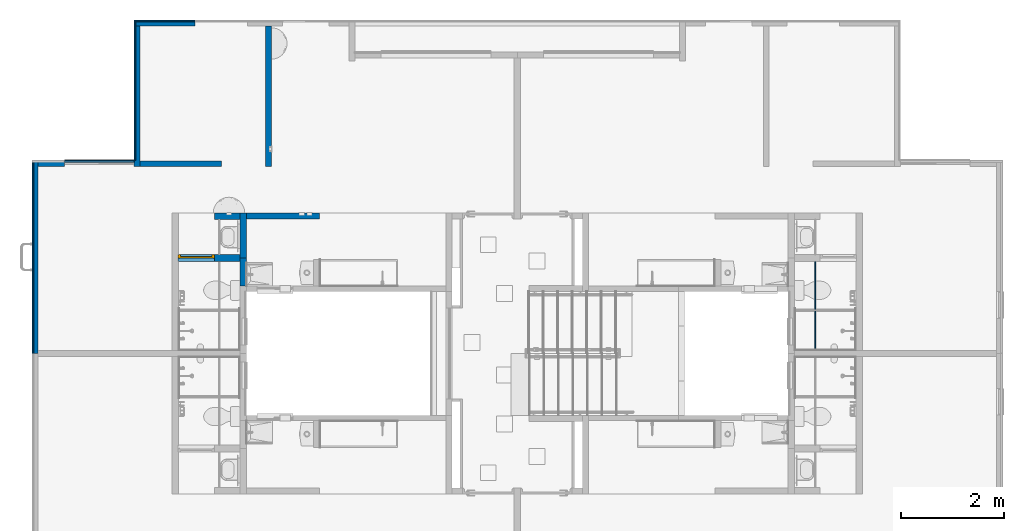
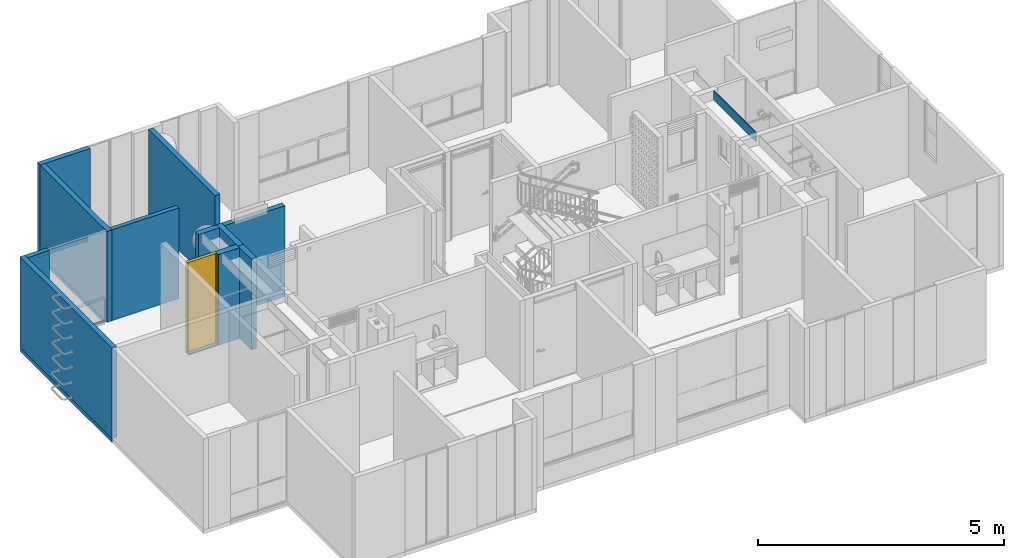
# One storey, part 17 of 51: 16 walls, 1 door, 1 opening.
"""IFC4 building model written with IfcOpenShell, lengths in metres."""

from ifc_helpers import new_model, entity, si_unit, converted_unit, derived_unit, direction, frame, origin, place, context, subcontext, project, spatial, indexed_curve, outline, extrude, polygons, source, transform, mapped, material, constituent, constituent_set, type_object, type_shapes, element, fill, save


model = new_model("IFC4")

# Units and contexts
model_context = context("Model", 3, precision=1e-05, world=origin(), true_north=direction((6.123031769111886e-17, 1.0)))
body_context = subcontext(model_context, "Body", "Model", "MODEL_VIEW")
ifc_project = project(units=[si_unit("LENGTHUNIT", "METRE"), si_unit("AREAUNIT", "SQUARE_METRE"), si_unit("VOLUMEUNIT", "CUBIC_METRE"), converted_unit("PLANEANGLEUNIT", "DEGREE", entity("IfcRatioMeasure", 0.017453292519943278), si_unit("PLANEANGLEUNIT", "RADIAN"), dimensions=[0, 0, 0, 0, 0, 0, 0]), si_unit("MASSUNIT", "GRAM", prefix="KILO"), derived_unit("MASSDENSITYUNIT", [(si_unit("MASSUNIT", "GRAM", prefix="KILO"), 1), (si_unit("LENGTHUNIT", "METRE"), -3)]), derived_unit("IONCONCENTRATIONUNIT", [(si_unit("MASSUNIT", "GRAM", prefix="KILO"), 1), (si_unit("LENGTHUNIT", "METRE"), -3)]), derived_unit("MOMENTOFINERTIAUNIT", [(si_unit("LENGTHUNIT", "METRE"), 4)]), si_unit("TIMEUNIT", "SECOND"), si_unit("FREQUENCYUNIT", "HERTZ"), si_unit("THERMODYNAMICTEMPERATUREUNIT", "DEGREE_CELSIUS"), derived_unit("THERMALTRANSMITTANCEUNIT", [(si_unit("MASSUNIT", "GRAM", prefix="KILO"), 1), (si_unit("THERMODYNAMICTEMPERATUREUNIT", "KELVIN"), -1), (si_unit("TIMEUNIT", "SECOND"), -3)]), derived_unit("THERMALCONDUCTANCEUNIT", [(si_unit("MASSUNIT", "GRAM", prefix="KILO"), 1), (si_unit("THERMODYNAMICTEMPERATUREUNIT", "KELVIN"), -1), (si_unit("TIMEUNIT", "SECOND"), -3), (si_unit("LENGTHUNIT", "METRE"), 1)]), derived_unit("VOLUMETRICFLOWRATEUNIT", [(si_unit("LENGTHUNIT", "METRE"), 3), (si_unit("TIMEUNIT", "SECOND"), -1)]), derived_unit("MASSFLOWRATEUNIT", [(si_unit("MASSUNIT", "GRAM", prefix="KILO"), 1), (si_unit("TIMEUNIT", "SECOND"), -1)]), derived_unit("ROTATIONALFREQUENCYUNIT", [(si_unit("TIMEUNIT", "SECOND"), -1)]), si_unit("ELECTRICCURRENTUNIT", "AMPERE"), si_unit("ELECTRICVOLTAGEUNIT", "VOLT"), si_unit("POWERUNIT", "WATT"), si_unit("FORCEUNIT", "NEWTON", prefix="KILO"), si_unit("ILLUMINANCEUNIT", "LUX"), si_unit("LUMINOUSFLUXUNIT", "LUMEN"), si_unit("LUMINOUSINTENSITYUNIT", "CANDELA"), derived_unit("USERDEFINED", [(si_unit("MASSUNIT", "GRAM", prefix="KILO"), -1), (si_unit("LENGTHUNIT", "METRE"), -2), (si_unit("TIMEUNIT", "SECOND"), 3), (si_unit("LUMINOUSFLUXUNIT", "LUMEN"), 1)]), derived_unit("USERDEFINED", [(si_unit("MASSUNIT", "GRAM", prefix="KILO"), 1), (si_unit("TIMEUNIT", "SECOND"), -3), (si_unit("LENGTHUNIT", "METRE"), 3), (si_unit("ELECTRICCURRENTUNIT", "AMPERE"), -2)]), derived_unit("SOUNDPOWERUNIT", [(si_unit("MASSUNIT", "GRAM", prefix="KILO"), 1), (si_unit("TIMEUNIT", "SECOND"), -3), (si_unit("LENGTHUNIT", "METRE"), 2)]), derived_unit("SOUNDPRESSUREUNIT", [(si_unit("MASSUNIT", "GRAM", prefix="KILO"), 1), (si_unit("LENGTHUNIT", "METRE"), -1), (si_unit("TIMEUNIT", "SECOND"), -2)]), derived_unit("LINEARVELOCITYUNIT", [(si_unit("LENGTHUNIT", "METRE"), 1), (si_unit("TIMEUNIT", "SECOND"), -1)]), si_unit("PRESSUREUNIT", "PASCAL"), derived_unit("USERDEFINED", [(si_unit("MASSUNIT", "GRAM", prefix="KILO"), 1), (si_unit("LENGTHUNIT", "METRE"), -2), (si_unit("TIMEUNIT", "SECOND"), -2)]), derived_unit("LINEARFORCEUNIT", [(si_unit("MASSUNIT", "GRAM", prefix="KILO"), 1), (si_unit("TIMEUNIT", "SECOND"), -2)]), derived_unit("PLANARFORCEUNIT", [(si_unit("MASSUNIT", "GRAM", prefix="KILO"), 1), (si_unit("LENGTHUNIT", "METRE"), -1), (si_unit("TIMEUNIT", "SECOND"), -2)]), derived_unit("SPECIFICHEATCAPACITYUNIT", [(si_unit("THERMODYNAMICTEMPERATUREUNIT", "KELVIN"), -1), (si_unit("LENGTHUNIT", "METRE"), 2), (si_unit("TIMEUNIT", "SECOND"), -2)]), derived_unit("HEATINGVALUEUNIT", [(si_unit("LENGTHUNIT", "METRE"), 2), (si_unit("TIMEUNIT", "SECOND"), -2)]), derived_unit("VAPORPERMEABILITYUNIT", [(si_unit("LENGTHUNIT", "METRE"), -1), (si_unit("TIMEUNIT", "SECOND"), 1)]), derived_unit("DYNAMICVISCOSITYUNIT", [(si_unit("MASSUNIT", "GRAM", prefix="KILO"), 1), (si_unit("TIMEUNIT", "SECOND"), -1), (si_unit("LENGTHUNIT", "METRE"), -1)]), derived_unit("THERMALEXPANSIONCOEFFICIENTUNIT", [(si_unit("THERMODYNAMICTEMPERATUREUNIT", "KELVIN"), -1)]), derived_unit("MODULUSOFELASTICITYUNIT", [(si_unit("MASSUNIT", "GRAM", prefix="KILO"), 1), (si_unit("LENGTHUNIT", "METRE"), -1), (si_unit("TIMEUNIT", "SECOND"), -2)]), derived_unit("ISOTHERMALMOISTURECAPACITYUNIT", [(si_unit("LENGTHUNIT", "METRE"), 3), (si_unit("MASSUNIT", "GRAM", prefix="KILO"), -1)]), derived_unit("MOISTUREDIFFUSIVITYUNIT", [(si_unit("TIMEUNIT", "SECOND"), -1), (si_unit("LENGTHUNIT", "METRE"), 2)])], contexts=[model_context])

# Site, building, storey
site_placement = place(None, origin())
site = spatial("IfcSite", under=ifc_project, at=site_placement, Name="Default", CompositionType="ELEMENT")
building_placement = place(site_placement, origin())
building = spatial("IfcBuilding", under=site, at=building_placement, CompositionType="ELEMENT")
storey_placement = place(building_placement, frame((0.0, 0.0, 2.350000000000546)))
storey = spatial("IfcBuildingStorey", under=building, at=storey_placement, Name="Nivel 2", CompositionType="ELEMENT", Elevation=2.350000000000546)

# Walls
ifc_material_1 = material(Name="Ladrillo claro (Aire)", Category="Materials")
wall_type_1 = type_object("IfcWallType", Name="Basic Wall:B2010 - 0.115m - Muro exterior en mampostería - Ladrillo", PredefinedType="STANDARD")
wall_1_placement = place(storey_placement, frame((0.0, -2.6950000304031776, 0.0), z_axis=(0.0, 0.0, 1.0), x_axis=(0.0, -1.0, 0.0)))
element("IfcWall", 1, at=wall_1_placement, inside=storey, type_object=wall_type_1, material=ifc_material_1, Name="Basic Wall:B2010 - 0.115m - Muro exterior en mampostería - Ladrillo", ObjectType="Basic Wall:B2010 - 0.115m - Muro exterior en mampostería - Ladrillo", PredefinedType="NOTDEFINED", context=body_context, shape_type="SweptSolid", body=[
    extrude(outline(indexed_curve([(3.7299999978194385, 0.0575), (-8.90011336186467e-17, 0.0575), (8.90011336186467e-17, -0.0575), (3.7299999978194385, -0.0575), (3.7299999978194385, 0.0575)], self_intersect=False)), origin(), (0.0, 0.0, 1.0), 2.2500000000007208),
])
wall_2_placement = place(storey_placement, frame((1.9749999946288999, -2.8100000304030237, 0.0), z_axis=(0.0, 0.0, 1.0), x_axis=(0.0, 1.0, 0.0)))
element("IfcWall", 2, at=wall_2_placement, inside=storey, type_object=wall_type_1, material=ifc_material_1, Name="Basic Wall:B2010 - 0.115m - Muro exterior en mampostería - Ladrillo", ObjectType="Basic Wall:B2010 - 0.115m - Muro exterior en mampostería - Ladrillo", PredefinedType="NOTDEFINED", context=body_context, shape_type="SweptSolid", body=[
    extrude(outline(indexed_curve([(2.7150000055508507, 0.05750000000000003), (-1.0301981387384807e-16, 0.057499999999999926), (1.0301981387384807e-16, -0.057499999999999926), (2.7150000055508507, -0.057499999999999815), (2.7150000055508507, 0.05750000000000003)], self_intersect=False)), origin(), (0.0, 0.0, 1.0), 2.2500000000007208),
])
ifc_material_2 = material(Name="LADRILLO CLARO", Category="Materials")
wall_type_2 = type_object("IfcWallType", Name="Basic Wall:B2010 - 0.115m - ME mampostería no estructural - Ladrillo", PredefinedType="STANDARD")
wall_3_placement = place(storey_placement, frame((0.05750000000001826, -2.7525000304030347, 0.0)))
element("IfcWall", 3, at=wall_3_placement, inside=storey, type_object=wall_type_2, material=ifc_material_2, Name="Basic Wall:B2010 - 0.115m - ME mampostería no estructural - Ladrillo", ObjectType="Basic Wall:B2010 - 0.115m - ME mampostería no estructural - Ladrillo", PredefinedType="NOTDEFINED", context=body_context, shape_type="SweptSolid", body=[
    extrude(outline(indexed_curve([(0.5099999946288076, 0.05749999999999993), (-3.859013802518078e-18, 0.057499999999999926), (3.859013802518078e-18, -0.057499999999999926), (0.5099999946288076, -0.05749999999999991), (0.5099999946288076, 0.05749999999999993)], self_intersect=False)), origin(), (0.0, 0.0, 1.0), 2.2500000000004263),
])
wall_4_placement = place(storey_placement, frame((3.091699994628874, -0.03750002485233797, 0.0), z_axis=(0.0, 0.0, 1.0), x_axis=(-1.0, 0.0, 0.0)))
element("IfcWall", 4, at=wall_4_placement, inside=storey, type_object=wall_type_2, material=ifc_material_2, Name="Basic Wall:B2010 - 0.115m - ME mampostería no estructural - Ladrillo", ObjectType="Basic Wall:B2010 - 0.115m - ME mampostería no estructural - Ladrillo", PredefinedType="NOTDEFINED", context=body_context, shape_type="SweptSolid", body=[
    extrude(outline(indexed_curve([(1.1742000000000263, 0.05749999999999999), (-5.076575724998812e-17, 0.05749999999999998), (5.076575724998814e-17, -0.0575), (1.1742000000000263, -0.0575), (1.1742000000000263, 0.05749999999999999)], self_intersect=False)), origin(), (0.0, 0.0, 1.0), 2.250000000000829),
])
wall_type_3 = type_object("IfcWallType", Name="Basic Wall:B2010 - 0.115m - Muro interior en mampostería - Ladrillo", PredefinedType="STANDARD")
wall_5_placement = place(storey_placement, frame((4.509999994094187, -0.09500002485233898, 0.0), z_axis=(0.0, 0.0, 1.0), x_axis=(0.0, -1.0, 0.0)))
element("IfcWall", 5, at=wall_5_placement, inside=storey, type_object=wall_type_3, material=ifc_material_1, Name="Basic Wall:B2010 - 0.115m - Muro interior en mampostería - Ladrillo", ObjectType="Basic Wall:B2010 - 0.115m - Muro interior en mampostería - Ladrillo", PredefinedType="NOTDEFINED", context=body_context, shape_type="SweptSolid", body=[
    extrude(outline(indexed_curve([(2.7150000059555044, 0.057500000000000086), (-2.3733436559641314e-18, 0.057499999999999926), (2.3733436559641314e-18, -0.057499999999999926), (2.7150000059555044, -0.05749999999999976), (2.7150000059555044, 0.057500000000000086)], self_intersect=False)), origin(), (0.0, 0.0, 1.0), 2.2499999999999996),
])
wall_6_placement = place(storey_placement, frame((4.087499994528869, -3.7675000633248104, 0.0)))
element("IfcWall", 6, at=wall_6_placement, inside=storey, type_object=wall_type_3, material=ifc_material_1, Name="Basic Wall:B2010 - 0.115m - Muro interior en mampostería - Ladrillo", ObjectType="Basic Wall:B2010 - 0.115m - Muro interior en mampostería - Ladrillo", PredefinedType="NOTDEFINED", context=body_context, shape_type="SweptSolid", body=[
    extrude(outline(indexed_curve([(1.4149999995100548, 0.05749999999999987), (-1.9595423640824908e-16, 0.057499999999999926), (1.9595423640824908e-16, -0.057499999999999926), (1.4149999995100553, -0.057499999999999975), (1.4149999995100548, 0.05749999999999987)], self_intersect=False)), origin(), (0.0, 0.0, 1.0), 2.2499999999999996),
])
ifc_material_3 = material(Name="Concreto (Aire)", Category="Materials")
wall_type_4 = type_object("IfcWallType", Name="Basic Wall:B2010 - 0.10m - Muro interior en concreto", PredefinedType="STANDARD")
wall_7_placement = place(storey_placement, frame((2.032499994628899, -2.7600000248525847, 0.0)))
element("IfcWall", 7, at=wall_7_placement, inside=storey, type_object=wall_type_4, material=ifc_material_3, Name="Basic Wall:B2010 - 0.10m - Muro interior en concreto", ObjectType="Basic Wall:B2010 - 0.10m - Muro interior en concreto", PredefinedType="NOTDEFINED", context=body_context, shape_type="SweptSolid", body=[
    extrude(outline(indexed_curve([(1.5699999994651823, 0.04999999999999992), (6.03923499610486e-18, 0.05), (-6.03923499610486e-18, -0.05), (1.5699999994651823, -0.050000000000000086), (1.5699999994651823, 0.04999999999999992)], self_intersect=False)), origin(), (0.0, 0.0, 1.0), 2.2499999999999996),
])
ifc_material_4 = material(Name="Pañete", Category="Materials")
ifc_constituent_1 = constituent(ifc_material_4, Name="Pañete", Category="Materials")
ifc_constituent_2 = constituent(ifc_material_1, Name="Ladrillo claro (Aire)", Category="Materials")
ifc_constituent_set_1 = constituent_set(constituents=[ifc_constituent_1, ifc_constituent_2], Name="Basic Wall:B2010 - 0.115m - Muro interior en mampostería - Ladrillo + Pañete")
wall_type_5 = type_object("IfcWallType", Name="Basic Wall:B2010 - 0.115m - Muro interior en mampostería - Ladrillo + Pañete", PredefinedType="STANDARD", material=ifc_constituent_set_1)
wall_8_placement = place(storey_placement, frame((3.4724999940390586, -3.7725000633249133, 0.0)))
element("IfcWall", 8, at=wall_8_placement, inside=storey, type_object=wall_type_5, material=ifc_constituent_set_1, Name="Basic Wall:B2010 - 0.115m - Muro interior en mampostería - Ladrillo + Pañete", ObjectType="Basic Wall:B2010 - 0.115m - Muro interior en mampostería - Ladrillo + Pañete", PredefinedType="NOTDEFINED", context=body_context, shape_type="SweptSolid", body=[
    extrude(outline(indexed_curve([(-0.0050000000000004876, -0.24500000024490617), (0.004999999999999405, -0.24500000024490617), (0.005000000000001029, 0.24500000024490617), (-0.004999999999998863, 0.24500000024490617), (-0.0050000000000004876, -0.24500000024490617)], self_intersect=False)), frame((0.24500000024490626, -0.05750000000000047, 0.0), z_axis=(0.0, 0.0, 1.0), x_axis=(0.0, 1.0, 0.0)), (0.0, 0.0, 1.0), 2.250000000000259),
    extrude(outline(indexed_curve([(-0.057499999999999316, -0.2450000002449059), (0.05750000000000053, -0.24500000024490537), (0.05749999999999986, 0.24500000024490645), (-0.05749999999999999, 0.24500000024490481), (-0.057499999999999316, -0.2450000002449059)], self_intersect=False)), frame((0.24500000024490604, 0.004999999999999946, 0.0), z_axis=(0.0, 0.0, 1.0), x_axis=(0.0, -1.0, 0.0)), (0.0, 0.0, 1.0), 2.250000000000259),
])

# Wall, opening, door
ifc_constituent_3 = constituent(ifc_material_4, Name="Pañete", Category="Materials")
ifc_constituent_4 = constituent(ifc_material_2, Name="LADRILLO CLARO", Category="Materials")
ifc_constituent_5 = constituent(ifc_material_4, Name="Pañete (2)", Category="Materials")
ifc_constituent_set_2 = constituent_set(constituents=[ifc_constituent_3, ifc_constituent_4, ifc_constituent_5], Name="Basic Wall:B2010 - 0.115m - MI  mampostería no estructural - Pañete + Ladrillo + Pañete")
wall_type_6 = type_object("IfcWallType", Name="Basic Wall:B2010 - 0.115m - MI  mampostería no estructural - Pañete + Ladrillo + Pañete", PredefinedType="STANDARD", material=ifc_constituent_set_2)
wall_9_placement = place(storey_placement, frame((3.962499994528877, -4.582500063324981, 0.0), z_axis=(0.0, 0.0, 1.0), x_axis=(-1.0, 0.0, 0.0)))
wall_9 = element("IfcWall", 9, at=wall_9_placement, inside=storey, type_object=wall_type_6, material=ifc_constituent_set_2, Name="Basic Wall:B2010 - 0.115m - MI  mampostería no estructural - Pañete + Ladrillo + Pañete", ObjectType="Basic Wall:B2010 - 0.115m - MI  mampostería no estructural - Pañete + Ladrillo + Pañete", PredefinedType="NOTDEFINED", context=body_context, shape_type="SweptSolid", body=[
    extrude(outline(indexed_curve([(-1.1325000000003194, -0.6649994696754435), (-1.1025000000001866, -0.6649994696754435), (-1.1025000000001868, 0.025000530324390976), (1.1175000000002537, 0.025000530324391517), (1.1175000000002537, 0.10999946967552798), (1.1175000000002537, 0.12999946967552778), (1.1175000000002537, 0.5199994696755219), (-1.1325000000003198, 0.5199994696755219), (-1.1325000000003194, -0.6649994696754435)], self_intersect=False)), frame((0.5199994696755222, 0.06750000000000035, 1.1325000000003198), z_axis=(0.0, -1.0, 0.0), x_axis=(0.0, 0.0, 1.0)), (0.0, 0.0, 1.0), 0.009999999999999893),
    extrude(outline(indexed_curve([(-0.7600000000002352, -0.6249996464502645), (-0.7300000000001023, -0.6249996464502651), (-0.7300000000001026, 0.06500035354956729), (1.4900000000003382, 0.06500035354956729), (1.4900000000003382, 0.5599992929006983), (-0.7600000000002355, 0.5599992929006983), (-0.7600000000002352, -0.6249996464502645)], self_intersect=False)), frame((0.5599992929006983, -0.05750000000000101, 0.7600000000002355), z_axis=(0.0, -1.0, 0.0), x_axis=(0.0, 0.0, 1.0)), (0.0, 0.0, 1.0), 0.010000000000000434),
    extrude(outline(indexed_curve([(-0.7600000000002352, -0.6316663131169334), (-0.7300000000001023, -0.6316663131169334), (-0.7300000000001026, 0.06833368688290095), (1.4900000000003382, 0.06833368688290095), (1.4900000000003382, 0.5633326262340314), (-0.7600000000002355, 0.5633326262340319), (-0.7600000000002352, -0.6316663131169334)], self_intersect=False)), frame((0.563332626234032, 0.057499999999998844, 0.7600000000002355), z_axis=(0.0, -1.0, 0.0), x_axis=(0.0, 0.0, 1.0)), (0.0, 0.0, 1.0), 0.11499999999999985),
])
opening_placement = place(wall_9_placement, frame((0.49499893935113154, -0.06749999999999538, 0.030000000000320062)))
opening = element("IfcOpeningElement", 10, at=opening_placement, cuts=wall_9, Name="C1030 - Puerta batiente - Madera+Aluminio:C1030 - 0.70 x 2.22 - Puerta batiente - Madera+ Metal:1", PredefinedType="OPENING", context=body_context, shape_type="SweptSolid", body=[
    extrude(outline(indexed_curve([(-2.8961849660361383e-19, 1.3535839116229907e-16), (2.2199999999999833, 1.3535839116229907e-16), (2.2199999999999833, 0.7000000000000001), (1.438182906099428e-16, 0.7000000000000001), (-2.8961849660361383e-19, 1.3535839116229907e-16)], self_intersect=False)), frame((0.0, 0.0, 0.0), z_axis=(0.0, 1.0, 0.0), x_axis=(0.0, 0.0, 1.0)), (0.0, 0.0, 1.0), 0.13499999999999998),
])
ifc_material_5 = material(Name="<Unnamed>")
door_type = type_object("IfcDoorType", Name="C1030 - Puerta batiente - Madera+Aluminio:C1030 - 0.70 x 2.22 - Puerta batiente - Madera+ Metal", OperationType="SINGLE_SWING_RIGHT", PredefinedType="DOOR", material=ifc_material_5)
shared_shape = source(origin(), body_context, "Body", "Tessellation", [
    polygons([(0.030000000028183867, 0.06499999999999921, 0.009880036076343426), (0.6699999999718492, 0.06499999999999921, 0.009880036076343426), (0.6699999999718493, 0.0324999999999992, 0.009880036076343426), (0.030000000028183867, 0.0324999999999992, 0.009880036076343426), (0.030000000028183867, 0.06499999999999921, 2.2050000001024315), (0.030000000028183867, 0.0324999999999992, 2.2050000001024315), (0.6699999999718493, 0.0324999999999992, 2.2050000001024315), (0.6699999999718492, 0.06499999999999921, 2.2050000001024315)], [[[1, 2, 3, 4]], [[5, 1, 4, 6]], [[6, 4, 3, 7]], [[7, 3, 2, 8]], [[8, 2, 1, 5]], [[5, 6, 7, 8]]], closed=True),
    polygons([(0.015000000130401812, 0.0649999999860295, 0.0), (0.015000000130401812, 0.07999999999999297, 0.0), (0.030000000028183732, 0.07999999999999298, 0.0), (0.030000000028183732, 0.04000000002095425, 0.0), (0.045000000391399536, 0.04000000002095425, 0.0), (0.045000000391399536, -1.6919798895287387e-17, 0.0), (0.015000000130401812, -5.075939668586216e-17, 0.0), (0.015000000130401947, 0.007499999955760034, 0.0), (1.651372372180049e-14, 0.0074999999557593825, 0.0), (1.651372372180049e-14, 0.0649999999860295, 0.0), (1.651372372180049e-14, 0.0074999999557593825, 2.2199999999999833), (0.015000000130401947, 0.007499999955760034, 2.2199999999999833), (0.015000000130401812, 0.0649999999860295, 2.2199999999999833), (1.651372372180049e-14, 0.0649999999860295, 2.2199999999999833), (0.6849999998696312, 0.06499999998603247, 0.0), (0.7000000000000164, 0.06499999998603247, 0.0), (0.7000000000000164, 0.007499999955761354, 0.0), (0.6849999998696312, 0.007499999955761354, 0.0), (0.6849999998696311, 0.0, 0.0), (0.6549999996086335, 0.0, 0.0), (0.6549999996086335, 0.04000000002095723, 0.0), (0.6699999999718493, 0.04000000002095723, 0.0), (0.6699999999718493, 0.07999999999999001, 0.0), (0.6849999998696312, 0.07999999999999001, 0.0), (0.7000000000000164, 0.06499999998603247, 2.2199999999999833), (0.6849999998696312, 0.06499999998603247, 2.2199999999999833), (0.6849999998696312, 0.007499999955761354, 2.2199999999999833), (0.7000000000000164, 0.007499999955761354, 2.2199999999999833), (0.6549999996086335, 0.0, 2.189999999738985), (0.6549999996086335, 0.03250000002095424, 2.189999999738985), (0.6549999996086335, 0.03250000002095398, 2.2050000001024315), (0.6549999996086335, 0.04000000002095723, 2.2050000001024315), (0.045000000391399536, 0.04000000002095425, 2.2050000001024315), (0.045000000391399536, 0.03250000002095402, 2.2050000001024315), (0.045000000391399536, 0.032500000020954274, 2.189999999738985), (0.045000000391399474, -1.6919798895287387e-17, 2.189999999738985), (0.6699999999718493, 0.04000000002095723, 2.2050000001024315), (0.6699999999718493, 0.07249999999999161, 2.2050000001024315), (0.6699999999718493, 0.07249999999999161, 2.2199999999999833), (0.6699999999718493, 0.07999999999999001, 2.2199999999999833), (0.030000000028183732, 0.07999999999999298, 2.2199999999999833), (0.030000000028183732, 0.07249999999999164, 2.2199999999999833), (0.030000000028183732, 0.07249999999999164, 2.2050000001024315), (0.030000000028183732, 0.04000000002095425, 2.2050000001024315), (0.6849999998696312, 0.07999999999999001, 2.2199999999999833), (0.6849999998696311, 0.0, 2.2199999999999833), (0.015000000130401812, -5.075939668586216e-17, 2.2199999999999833), (0.015000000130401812, 0.07999999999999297, 2.2199999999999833)], [[[1, 2, 3, 4, 5, 6, 7, 8, 9, 10]], [[11, 9, 8, 12]], [[13, 1, 10, 14]], [[15, 16, 17, 18, 19, 20, 21, 22, 23, 24]], [[25, 16, 15, 26]], [[27, 18, 17, 28]], [[20, 29, 30, 31, 32, 21]], [[5, 33, 34, 35, 36, 6]], [[22, 37, 38, 39, 40, 23]], [[3, 41, 42, 43, 44, 4]], [[28, 17, 16, 25]], [[14, 10, 9, 11]], [[26, 15, 24, 45]], [[45, 24, 23, 40]], [[21, 32, 37, 22]], [[19, 46, 47, 7, 6, 36, 29, 20]], [[46, 19, 18, 27]], [[12, 8, 7, 47]], [[48, 2, 1, 13]], [[26, 45, 40, 39, 42, 41, 48, 13, 14, 11, 12, 47, 46, 27, 28, 25]], [[38, 37, 32, 31, 34, 33, 44, 43]], [[36, 35, 30, 29]], [[4, 44, 33, 5]], [[41, 3, 2, 48]], [[35, 34, 31, 30]], [[43, 42, 39, 38]]], closed=True),
])
type_shapes(door_type, [shared_shape])
door_placement = place(opening_placement, origin())
door = element("IfcDoor", 11, at=door_placement, inside=storey, type_object=door_type, material=ifc_material_5, Name="C1030 - Puerta batiente - Madera+Aluminio:C1030 - 0.70 x 2.22 - Puerta batiente - Madera+ Metal", ObjectType="C1030 - Puerta batiente - Madera+Aluminio:C1030 - 0.70 x 2.22 - Puerta batiente - Madera+ Metal", OperationType="SINGLE_SWING_RIGHT", OverallHeight=2.2199999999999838, OverallWidth=0.7000000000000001, PredefinedType="DOOR", context=body_context, shape_type="MappedRepresentation", body=[
    mapped(shared_shape, transform((0.0, 0.0, 0.0), scale=1.0)),
])
fill(opening, door)

# Walls
ifc_material_6 = material(Name="Pañete, estuco y pintura", Category="Materials")
ifc_constituent_6 = constituent(ifc_material_6, Name="Pañete, estuco y pintura", Category="Materials")
ifc_constituent_7 = constituent(ifc_material_1, Name="Ladrillo claro (Aire)", Category="Materials")
ifc_constituent_set_3 = constituent_set(constituents=[ifc_constituent_6, ifc_constituent_7], Name="Basic Wall:B2010 - 0.115m - Muro interior en mampostería - Ladrillo + Pañete+ estuco+ pintura")
wall_type_7 = type_object("IfcWallType", Name="Basic Wall:B2010 - 0.115m - Muro interior en mampostería - Ladrillo + Pañete+ estuco+ pintura", PredefinedType="STANDARD", material=ifc_constituent_set_3)
wall_10_placement = place(storey_placement, frame((4.024999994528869, -3.7100000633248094, 0.0), z_axis=(0.0, 0.0, 1.0), x_axis=(0.0, -1.0, 0.0)))
element("IfcWall", 12, at=wall_10_placement, inside=storey, type_object=wall_type_7, material=ifc_constituent_set_3, Name="Basic Wall:B2010 - 0.115m - Muro interior en mampostería - Ladrillo + Pañete+ estuco+ pintura", ObjectType="Basic Wall:B2010 - 0.115m - Muro interior en mampostería - Ladrillo + Pañete+ estuco+ pintura", PredefinedType="NOTDEFINED", context=body_context, shape_type="SweptSolid", body=[
    extrude(outline(indexed_curve([(-0.32083333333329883, -0.0033333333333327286), (0.35916666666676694, -0.0033333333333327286), (0.42666666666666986, -0.0033333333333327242), (0.4266666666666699, 0.0066666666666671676), (-0.4458333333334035, 0.0066666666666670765), (-0.44583333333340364, -0.0033333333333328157), (-0.32083333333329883, -0.0033333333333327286)], self_intersect=False)), frame((0.44583333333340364, -0.05916666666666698, 0.0)), (0.0, 0.0, 1.0), 2.2499999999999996),
    extrude(outline(indexed_curve([(0.25700000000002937, -0.04599999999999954), (0.37200000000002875, -0.04599999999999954), (0.37200000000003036, 0.0690000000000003), (-0.5005000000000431, 0.06900000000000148), (-0.5005000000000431, -0.04599999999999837), (0.25700000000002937, -0.04599999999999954)], self_intersect=False)), frame((0.3720000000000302, 0.016500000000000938, 0.0), z_axis=(0.0, 0.0, 1.0), x_axis=(-1.0, 0.0, 0.0)), (0.0, 0.0, 1.0), 2.2499999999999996),
])
wall_11_placement = place(storey_placement, frame((4.024999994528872, -4.582500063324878, 0.0), z_axis=(0.0, 0.0, 1.0), x_axis=(0.0, -1.0, 0.0)))
element("IfcWall", 13, at=wall_11_placement, inside=storey, type_object=wall_type_7, material=ifc_constituent_set_3, Name="Basic Wall:B2010 - 0.115m - Muro interior en mampostería - Ladrillo + Pañete+ estuco+ pintura", ObjectType="Basic Wall:B2010 - 0.115m - Muro interior en mampostería - Ladrillo + Pañete+ estuco+ pintura", PredefinedType="NOTDEFINED", context=body_context, shape_type="SweptSolid", body=[
    extrude(outline(indexed_curve([(-0.1628056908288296, -0.004000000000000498), (0.3117085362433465, -0.004000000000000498), (0.31170853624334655, 0.005999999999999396), (-0.23030569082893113, 0.005999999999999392), (-0.2303056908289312, -0.0040000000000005), (-0.1628056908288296, -0.004000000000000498)], self_intersect=False)), frame((0.23030569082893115, -0.058499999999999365, 0.0)), (0.0, 0.0, 1.0), 2.2499999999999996),
    extrude(outline(indexed_curve([(0.09067143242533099, -0.03833333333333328), (0.12467143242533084, -0.03833333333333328), (0.21717139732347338, -0.0383333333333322), (0.2171713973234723, 0.07666666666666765), (-0.32484282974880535, 0.07666666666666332), (-0.3248428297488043, -0.03833333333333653), (0.09067143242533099, -0.03833333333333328)], self_intersect=False)), frame((0.21717139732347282, 0.02416666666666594, 0.0), z_axis=(0.0, 0.0, 1.0), x_axis=(-1.0, 0.0, 0.0)), (0.0, 0.0, 1.0), 2.2499999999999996),
])
ifc_material_7 = material(Name="Plasterboard", Category="Materials")
wall_type_8 = type_object("IfcWallType", Name="Basic Wall:C1070 - 0.02m - Plafón - Drywall", PredefinedType="STANDARD")
wall_12_placement = place(storey_placement, frame((15.082500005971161, -6.365000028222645, 2.0200000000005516), z_axis=(0.0, 0.0, 1.0), x_axis=(0.0, 1.0, 0.0)))
element("IfcWall", 14, at=wall_12_placement, inside=storey, type_object=wall_type_8, material=ifc_material_7, Name="Basic Wall:C1070 - 0.02m - Plafón - Drywall", ObjectType="Basic Wall:C1070 - 0.02m - Plafón - Drywall", PredefinedType="NOTDEFINED", context=body_context, shape_type="SweptSolid", body=[
    extrude(outline(indexed_curve([(1.7149999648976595, 0.010000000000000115), (-7.706224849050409e-17, 0.009999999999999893), (7.706224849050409e-17, -0.009999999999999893), (1.7149999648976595, -0.00999999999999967), (1.7149999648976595, 0.010000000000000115)], self_intersect=False)), origin(), (0.0, 0.0, 1.0), 0.23000000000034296),
])
wall_type_9 = type_object("IfcWallType", Name="Basic Wall:B2010 - 0.03m - ME enchape  no estructural - Ladrillo", PredefinedType="STANDARD")
wall_13_placement = place(storey_placement, frame((1.932499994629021, -0.010000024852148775, -0.10000000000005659), z_axis=(0.0, 0.0, 1.0), x_axis=(0.0, -1.0, 0.0)))
element("IfcWall", 15, at=wall_13_placement, inside=storey, type_object=wall_type_9, material=ifc_material_2, Name="Basic Wall:B2010 - 0.03m - ME enchape  no estructural - Ladrillo", ObjectType="Basic Wall:B2010 - 0.03m - ME enchape  no estructural - Ladrillo", PredefinedType="NOTDEFINED", context=body_context, shape_type="SweptSolid", body=[
    extrude(outline(indexed_curve([(2.6836602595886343, 0.015000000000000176), (1.2417119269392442e-18, 0.015000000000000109), (-1.2417119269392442e-18, -0.015000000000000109), (2.6836602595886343, -0.015000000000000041), (2.6836602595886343, 0.015000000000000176)], self_intersect=False)), origin(), (0.0, 0.0, 1.0), 0.1),
])
wall_14_placement = place(storey_placement, frame((-0.04249999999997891, -2.7250000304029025, -0.10000000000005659), z_axis=(0.0, 0.0, 1.0), x_axis=(0.0, -1.0, 0.0)))
element("IfcWall", 16, at=wall_14_placement, inside=storey, type_object=wall_type_9, material=ifc_material_2, Name="Basic Wall:B2010 - 0.03m - ME enchape  no estructural - Ladrillo", ObjectType="Basic Wall:B2010 - 0.03m - ME enchape  no estructural - Ladrillo", PredefinedType="NOTDEFINED", context=body_context, shape_type="SweptSolid", body=[
    extrude(outline(indexed_curve([(3.699999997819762, 0.015), (-2.796678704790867e-17, 0.015), (2.796678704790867e-17, -0.015), (3.699999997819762, -0.015000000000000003), (3.699999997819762, 0.015)], self_intersect=False)), origin(), (0.0, 0.0, 1.0), 0.1),
])
wall_15_placement = place(storey_placement, frame((3.092499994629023, 0.004999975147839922, -0.10000000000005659), z_axis=(0.0, 0.0, 1.0), x_axis=(-1.0, 0.0, 0.0)))
element("IfcWall", 17, at=wall_15_placement, inside=storey, type_object=wall_type_9, material=ifc_material_2, Name="Basic Wall:B2010 - 0.03m - ME enchape  no estructural - Ladrillo", ObjectType="Basic Wall:B2010 - 0.03m - ME enchape  no estructural - Ladrillo", PredefinedType="NOTDEFINED", context=body_context, shape_type="SweptSolid", body=[
    extrude(outline(indexed_curve([(1.1750000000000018, 0.015), (-1.4243869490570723e-16, 0.015), (1.4243869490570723e-16, -0.015), (1.175000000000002, -0.015), (1.1750000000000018, 0.015)], self_intersect=False)), origin(), (0.0, 0.0, 1.0), 0.1),
])
wall_16_placement = place(storey_placement, frame((0.5674999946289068, -2.710000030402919, -0.10000000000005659)))
element("IfcWall", 18, at=wall_16_placement, inside=storey, type_object=wall_type_9, material=ifc_material_2, Name="Basic Wall:B2010 - 0.03m - ME enchape  no estructural - Ladrillo", ObjectType="Basic Wall:B2010 - 0.03m - ME enchape  no estructural - Ladrillo", PredefinedType="NOTDEFINED", context=body_context, shape_type="SweptSolid", body=[
    extrude(outline(indexed_curve([(1.3500000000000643, 0.01499999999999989), (2.443197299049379e-18, 0.014999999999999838), (-2.443197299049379e-18, -0.014999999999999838), (1.3500000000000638, -0.014999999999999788), (1.3500000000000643, 0.01499999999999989)], self_intersect=False)), origin(), (0.0, 0.0, 1.0), 0.1),
])

save(model, "model.ifc")
